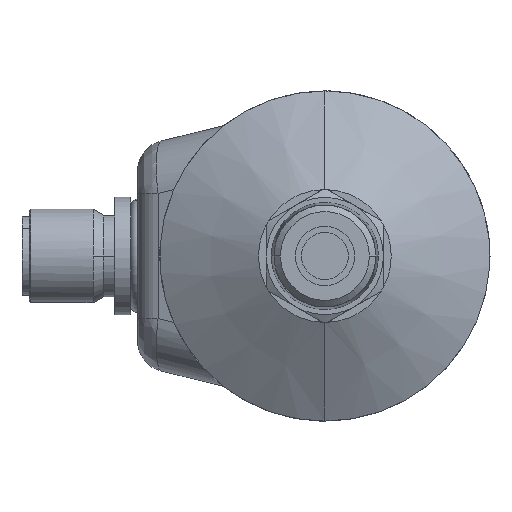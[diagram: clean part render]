
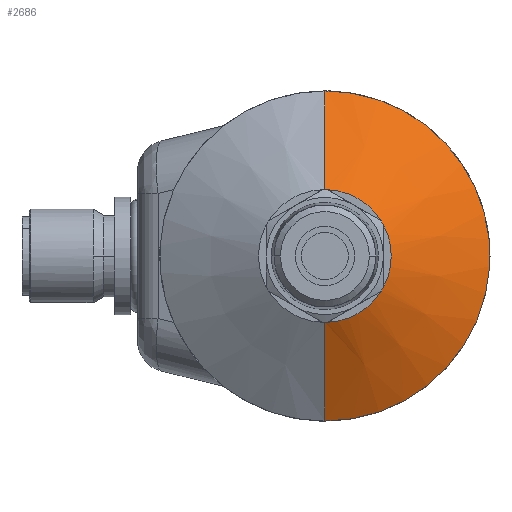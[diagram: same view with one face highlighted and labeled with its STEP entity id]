
A CAD part, front view. The second image highlights one B-rep face of the part: STEP entity #2686.
In plain terms, the highlighted conical face has half-angle 60 degrees and reference radius 14.825 mm.
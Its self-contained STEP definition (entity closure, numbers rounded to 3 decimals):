
#449=CARTESIAN_POINT('',(0.,-31.303,0.));
#450=DIRECTION('',(0.,-1.,0.));
#451=DIRECTION('',(0.034,0.,0.999));
#452=AXIS2_PLACEMENT_3D('',#449,#450,#451);
#454=DIRECTION('',(0.,0.5,0.866));
#455=VECTOR('',#454,14.607);
#456=CARTESIAN_POINT('',(0.,-31.303,8.5));
#457=LINE('',#456,#455);
#458=CARTESIAN_POINT('',(0.,-24.,0.));
#459=DIRECTION('',(0.,1.,0.));
#460=DIRECTION('',(0.,0.,1.));
#461=AXIS2_PLACEMENT_3D('',#458,#459,#460);
#463=CARTESIAN_POINT('',(0.,-24.,0.));
#464=DIRECTION('',(0.,1.,0.));
#465=DIRECTION('',(0.998,0.,-0.063));
#466=AXIS2_PLACEMENT_3D('',#463,#464,#465);
#468=DIRECTION('',(0.,-0.5,0.866));
#469=VECTOR('',#468,14.607);
#470=CARTESIAN_POINT('',(0.,-24.,-21.15));
#471=LINE('',#470,#469);
#472=CARTESIAN_POINT('',(0.,-31.303,0.));
#473=DIRECTION('',(0.,-1.,0.));
#474=DIRECTION('',(0.,0.,-1.));
#475=AXIS2_PLACEMENT_3D('',#472,#473,#474);
#477=CARTESIAN_POINT('',(0.,-31.303,0.));
#478=DIRECTION('',(0.,-1.,0.));
#479=DIRECTION('',(0.849,0.,-0.529));
#480=AXIS2_PLACEMENT_3D('',#477,#478,#479);
#482=CARTESIAN_POINT('',(0.,-31.303,0.));
#483=DIRECTION('',(0.,-1.,0.));
#484=DIRECTION('',(0.882,0.,0.471));
#485=AXIS2_PLACEMENT_3D('',#482,#483,#484);
#487=CARTESIAN_POINT('',(0.,-31.303,0.));
#488=DIRECTION('',(0.,1.,0.));
#489=DIRECTION('',(0.034,0.,0.999));
#490=AXIS2_PLACEMENT_3D('',#487,#488,#489);
#905=CARTESIAN_POINT('',(0.,-31.303,0.));
#906=DIRECTION('',(0.,1.,0.));
#907=DIRECTION('',(0.849,0.,-0.529));
#908=AXIS2_PLACEMENT_3D('',#905,#906,#907);
#914=CARTESIAN_POINT('',(0.,-31.303,0.));
#915=DIRECTION('',(0.,1.,0.));
#916=DIRECTION('',(0.882,0.,0.471));
#917=AXIS2_PLACEMENT_3D('',#914,#915,#916);
#1705=CARTESIAN_POINT('',(0.,-24.,21.15));
#1706=VERTEX_POINT('',#1705);
#1707=CARTESIAN_POINT('',(0.,-24.,-21.15));
#1709=VERTEX_POINT('',#1707);
#1717=CARTESIAN_POINT('',(21.108,-24.,-1.328));
#1718=VERTEX_POINT('',#1717);
#1719=CARTESIAN_POINT('',(0.286,-31.303,
8.495));
#1720=CARTESIAN_POINT('',(7.214,-31.303,4.495));
#1721=VERTEX_POINT('',#1719);
#1722=VERTEX_POINT('',#1720);
#1723=CARTESIAN_POINT('',(0.,-31.303,8.5));
#1724=VERTEX_POINT('',#1723);
#1725=CARTESIAN_POINT('',(0.,-31.303,-8.5));
#1726=VERTEX_POINT('',#1725);
#1727=CARTESIAN_POINT('',(0.286,-31.303,
-8.495));
#1728=VERTEX_POINT('',#1727);
#1729=CARTESIAN_POINT('',(7.214,-31.303,
-4.495));
#1730=VERTEX_POINT('',#1729);
#1731=CARTESIAN_POINT('',(7.5,-31.303,-4.));
#1732=VERTEX_POINT('',#1731);
#1733=CARTESIAN_POINT('',(7.5,-31.303,4.));
#1734=VERTEX_POINT('',#1733);
#2659=CARTESIAN_POINT('',(0.,-27.652,0.));
#2660=DIRECTION('',(0.,1.,0.));
#2661=DIRECTION('',(0.,0.,1.));
#2662=AXIS2_PLACEMENT_3D('',#2659,#2660,#2661);
#2663=CONICAL_SURFACE('',#2662,14.825,60.);
#2665=ORIENTED_EDGE('',*,*,#2664,.F.);
#2667=ORIENTED_EDGE('',*,*,#2666,.T.);
#2669=ORIENTED_EDGE('',*,*,#2668,.T.);
#2670=ORIENTED_EDGE('',*,*,#2648,.T.);
#2671=ORIENTED_EDGE('',*,*,#2646,.T.);
#2673=ORIENTED_EDGE('',*,*,#2672,.T.);
#2675=ORIENTED_EDGE('',*,*,#2674,.T.);
#2677=ORIENTED_EDGE('',*,*,#2676,.F.);
#2679=ORIENTED_EDGE('',*,*,#2678,.T.);
#2681=ORIENTED_EDGE('',*,*,#2680,.F.);
#2683=ORIENTED_EDGE('',*,*,#2682,.T.);
#2684=EDGE_LOOP('',(#2665,#2667,#2669,#2670,#2671,#2673,#2675,#2677,#2679,#2681,
#2683));
#2685=FACE_OUTER_BOUND('',#2684,.F.);
#2686=ADVANCED_FACE('',(#2685),#2663,.T.);
#453=CIRCLE('',#452,8.5);
#462=CIRCLE('',#461,21.15);
#467=CIRCLE('',#466,21.15);
#476=CIRCLE('',#475,8.5);
#481=CIRCLE('',#480,8.5);
#486=CIRCLE('',#485,8.5);
#491=CIRCLE('',#490,8.5);
#909=CIRCLE('',#908,8.5);
#918=CIRCLE('',#917,8.5);
#2646=EDGE_CURVE('',#1718,#1709,#467,.T.);
#2648=EDGE_CURVE('',#1706,#1718,#462,.T.);
#2664=EDGE_CURVE('',#1721,#1722,#491,.T.);
#2666=EDGE_CURVE('',#1721,#1724,#453,.T.);
#2668=EDGE_CURVE('',#1724,#1706,#457,.T.);
#2672=EDGE_CURVE('',#1709,#1726,#471,.T.);
#2674=EDGE_CURVE('',#1726,#1728,#476,.T.);
#2676=EDGE_CURVE('',#1730,#1728,#909,.T.);
#2678=EDGE_CURVE('',#1730,#1732,#481,.T.);
#2680=EDGE_CURVE('',#1734,#1732,#918,.T.);
#2682=EDGE_CURVE('',#1734,#1722,#486,.T.);
